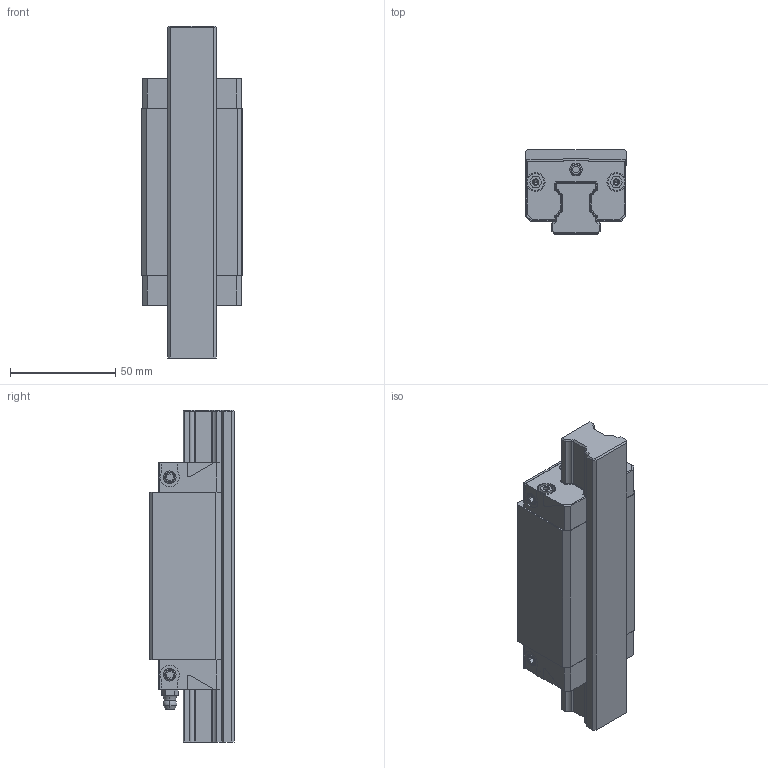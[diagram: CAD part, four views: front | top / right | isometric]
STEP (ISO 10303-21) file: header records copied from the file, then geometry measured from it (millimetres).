
FILE_DESCRIPTION((''),'2;1');
FILE_NAME('KWD_025_SLH_CS__ASM','2021-10-14T07:37:34',('ac91sw'),(''),'CREO PARAMETRIC BY PTC INC, 2020044','CREO PARAMETRIC BY PTC INC, 2020044','');
FILE_SCHEMA(('AUTOMOTIVE_DESIGN { 1 0 10303 214 1 1 1 1 }'));
Length unit declared in the file: millimetre
Products named in the file (7): KWD_025_SLH_CS__SKEL; R201520131; R200120102_Z; R343706101_Z; KWD_025_SLH_CS__PSF; R341700802_Z; KWD_025_SLH_CS__ASM
Assembly tree (11 placements, depth 2):
  KWD_025_SLH_CS__ASM
    KWD_025_SLH_CS__SKEL
    R201520131
    R200120102_Z  x2
    R343706101_Z  x5
    KWD_025_SLH_CS__PSF
    R341700802_Z
Bounding box: 48 x 40 x 157.9 mm (x, y, z)
Volume: 181092.8 mm3; surface area: 54766 mm2
Topology: 10 solids, 24 shells, 512 faces, 1310 edges, 830 vertices
Faces by surface type: plane 292, cylinder 142, cone 72, torus 4, sphere 2
Entity records: 16430 total; most frequent: CARTESIAN_POINT 1945, DIRECTION 1648, ORIENTED_EDGE 1540, PROPERTY_DEFINITION 823, REPRESENTATION 814, PROPERTY_DEFINITION_REPRESENTATION 814, EDGE_CURVE 786, DESCRIPTIVE_REPRESENTATION_ITEM 757
